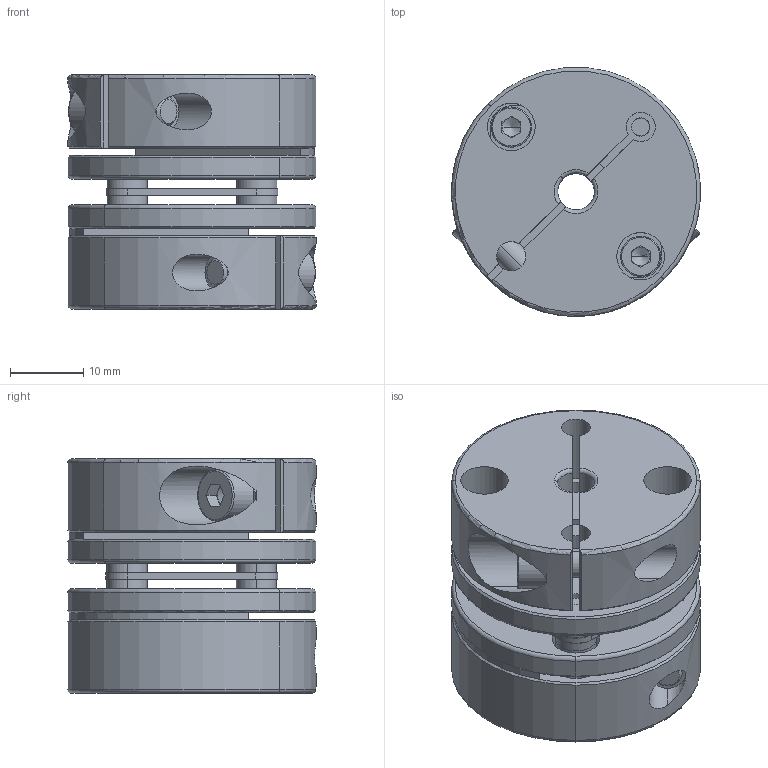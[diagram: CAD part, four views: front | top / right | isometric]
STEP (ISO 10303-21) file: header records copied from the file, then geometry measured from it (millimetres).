
FILE_DESCRIPTION (( 'STEP AP203' ), '1' );
FILE_NAME ('DXB-34-32-5-5.STEP', '2023-10-18T08:04:31', ( '' ), ( '' ), 'SwSTEP 2.0', 'SolidWorks 2020', '' );
FILE_SCHEMA (( 'CONFIG_CONTROL_DESIGN' ));
Length unit declared in the file: millimetre
Products named in the file (5): socket head cap screw_iso_ISO 4762 M4 x 12 - 12C; 34ㄛ32臚え郪; DXB-34-32-5-5; socket head cap screw_iso_ISO 4762 M3 x 6 - 6C; 34臚え薊粣ん傷裔
Assembly tree (9 placements, depth 2):
  DXB-34-32-5-5
    34ㄛ32臚え郪
    34臚え薊粣ん傷裔  x2
    socket head cap screw_iso_ISO 4762 M3 x 6 - 6C  x4
    socket head cap screw_iso_ISO 4762 M4 x 12 - 12C  x2
Bounding box: 34 x 33.94 x 32 mm (x, y, z)
Volume: 21741.6 mm3; surface area: 13806.9 mm2
Topology: 9 solids, 9 shells, 378 faces, 886 edges, 542 vertices
Faces by surface type: cylinder 146, plane 146, torus 44, cone 42
Entity records: 6620 total; most frequent: CARTESIAN_POINT 1240, DIRECTION 1089, ORIENTED_EDGE 912, EDGE_CURVE 456, AXIS2_PLACEMENT_3D 445, VERTEX_POINT 288, EDGE_LOOP 244, CIRCLE 237
